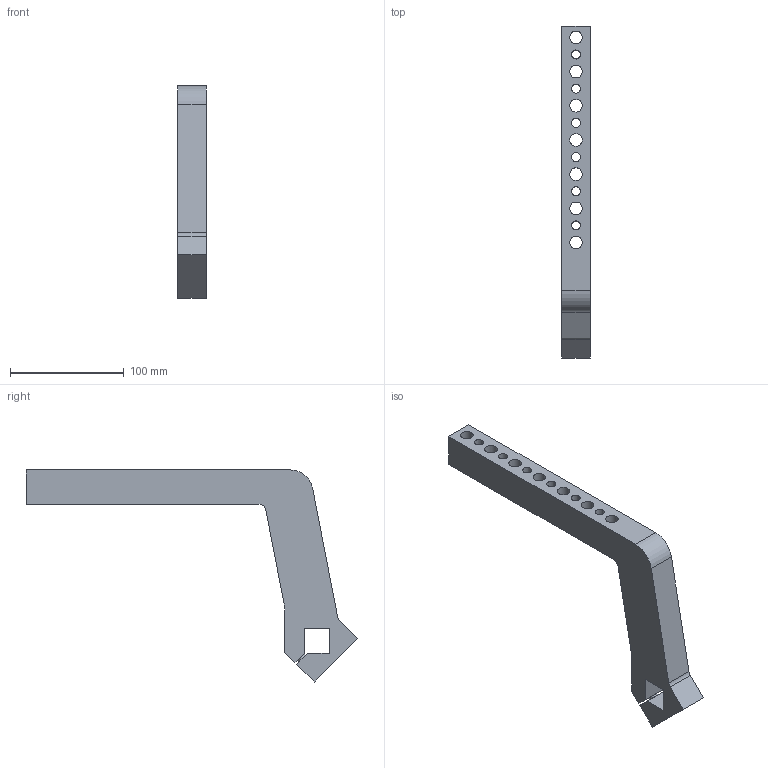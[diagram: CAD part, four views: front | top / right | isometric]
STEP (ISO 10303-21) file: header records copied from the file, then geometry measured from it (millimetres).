
FILE_DESCRIPTION(/* description */ (''),/* implementation_level */ '2;1');
FILE_NAME(/* name */ 'C:\PNX_VAULTFOLDER\Area Tecnica\Disegni\VARIE-3D\Componenti\7000\QNACA###M\QNACA047M.stp',/* time_stamp */ '2018-10-18T14:54:06+02:00',/* author */ ('donadda1'),/* organization */ ('Pneumax S.p.A.'),/* preprocessor_version */ 'ST-DEVELOPER v17',/* originating_system */ 'Autodesk Inventor 2019',/* authorisation */ '');
FILE_SCHEMA (('AUTOMOTIVE_DESIGN { 1 0 10303 214 3 1 1 }'));
Length unit declared in the file: millimetre
Products named in the file (1): QNACA047M
Bounding box: 25 x 291.06 x 186.06 mm (x, y, z)
Volume: 316976.8 mm3; surface area: 61679.5 mm2
Topology: 1 solids, 1 shells, 36 faces, 102 edges, 68 vertices
Faces by surface type: cylinder 18, plane 18
Full cylindrical faces by diameter (mm): 8 x7, 11 x7
Entity records: 1277 total; most frequent: DIRECTION 212, CARTESIAN_POINT 207, ORIENTED_EDGE 204, EDGE_CURVE 102, AXIS2_PLACEMENT_3D 73, VERTEX_POINT 68, LINE 66, VECTOR 66
